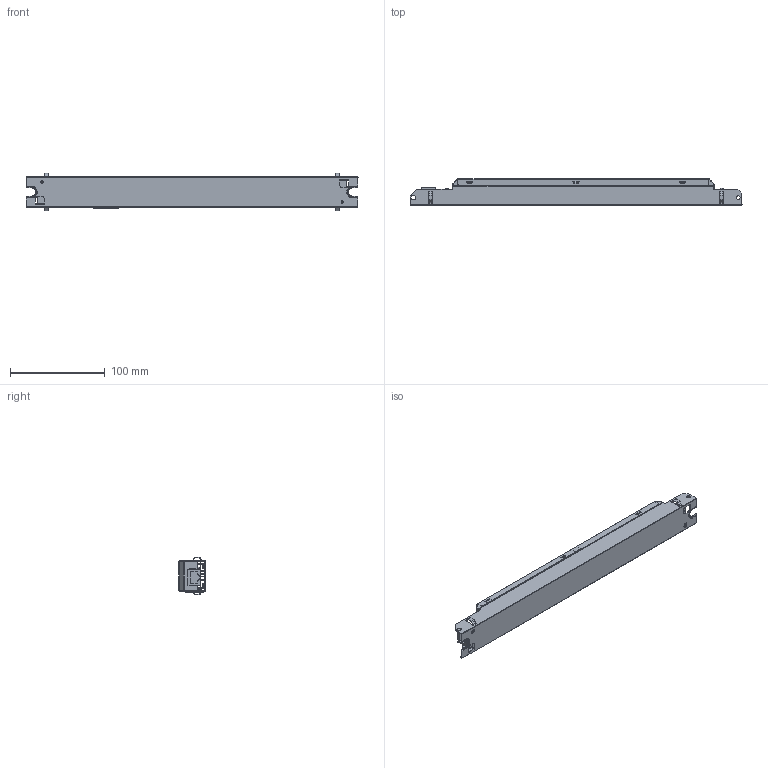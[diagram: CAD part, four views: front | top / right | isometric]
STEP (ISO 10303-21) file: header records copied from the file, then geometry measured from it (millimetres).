
FILE_DESCRIPTION (( 'STEP AP214' ), '1' );
FILE_NAME ('BXDR-60LT-U220P-01-A_1015.STEP', '2020-10-23T20:18:20', ( '' ), ( '' ), 'SwSTEP 2.0', 'SolidWorks 2020', '' );
FILE_SCHEMA (( 'AUTOMOTIVE_DESIGN' ));
Length unit declared in the file: millimetre
Products named in the file (1): BXDR-60LT-U220P-01-A_1015
Bounding box: 350.2 x 27.9 x 39.2 mm (x, y, z)
Volume: 29835.3 mm3; surface area: 110725 mm2
Topology: 25 solids, 25 shells, 2971 faces, 7756 edges, 4901 vertices
Faces by surface type: plane 1627, cylinder 1101, torus 142, bspline 85, cone 14, sphere 2
Full cylindrical faces by diameter (mm): 0.03 x1, 0.188 x1
Entity records: 132573 total; most frequent: CARTESIAN_POINT 25577, ORIENTED_EDGE 15472, DIRECTION 15306, EDGE_CURVE 7736, AXIS2_PLACEMENT_3D 5211, VERTEX_POINT 4901, LINE 4884, VECTOR 4884
